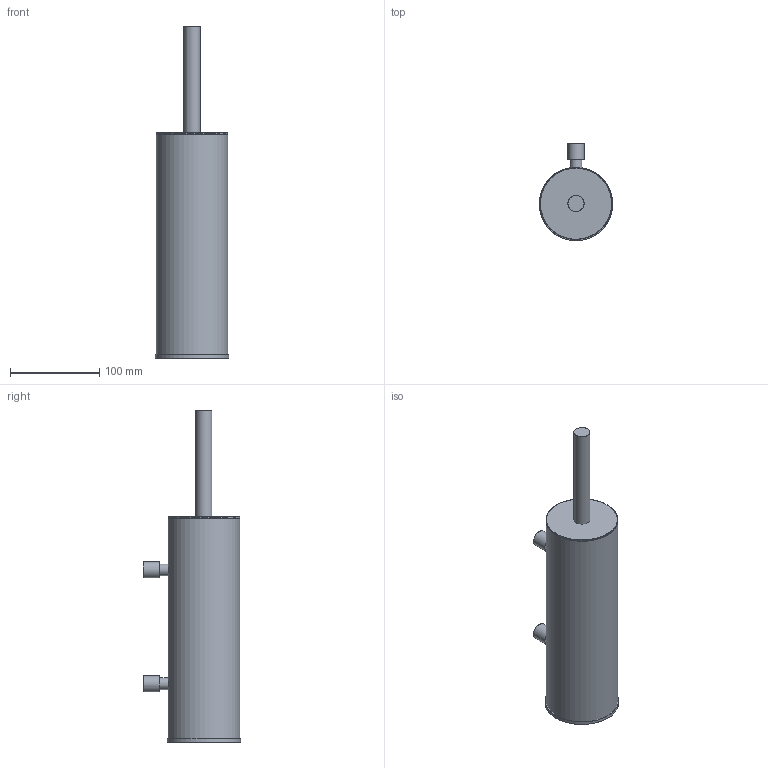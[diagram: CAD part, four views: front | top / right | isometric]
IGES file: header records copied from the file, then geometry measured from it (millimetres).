
Global section: file name: /Users/f/Desktop/I'/AE220.igs; native system: Rhinoceros ( Jul 22 2010 ); preprocessor: Trout Lake IGES 012 Jul 22 2010; date: 100803.085852; units: millimetre
Bounding box: 82 x 108.51 x 371 mm (x, y, z)
Surface area: 106585.8 mm2 (no closed solid volume)
Topology: 0 solids, 0 shells, 26 faces, 163 edges, 156 vertices
Faces by surface type: bspline 26
